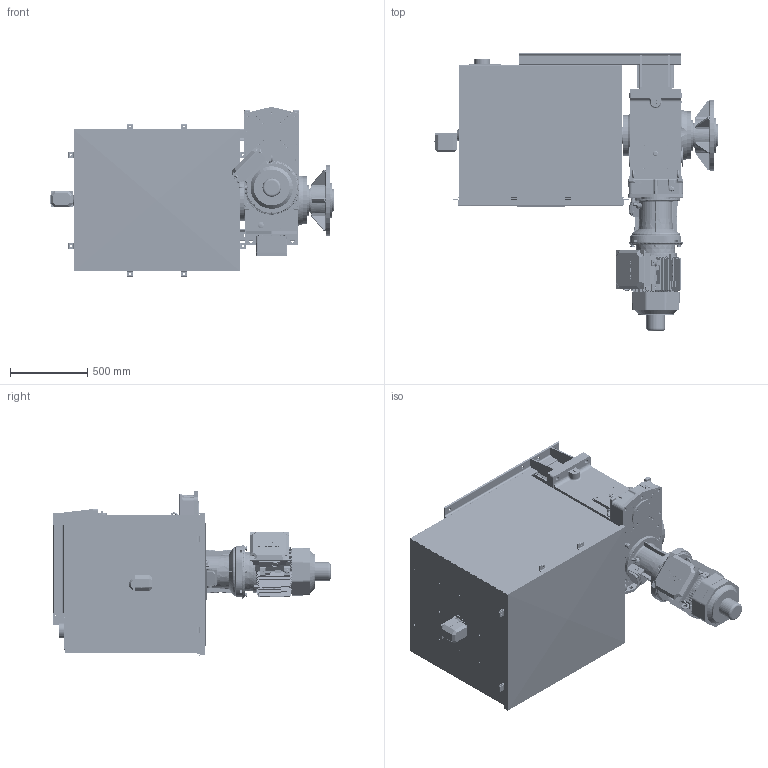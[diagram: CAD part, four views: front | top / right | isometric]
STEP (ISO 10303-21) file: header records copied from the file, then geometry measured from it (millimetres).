
FILE_DESCRIPTION(/* description */ (''),/* implementation_level */ '2;1');
FILE_NAME(/* name */ 'K:\NEMANJA\CABLE REEL\CABLE REEL DA\0700-6\07006005 DA-CRVD\STEP\75964.stp',/* time_stamp */ '2017-03-16T13:49:50+01:00',/* author */ ('zeldjo01'),/* organization */ ('Hillmar Industries Ltd.'),/* preprocessor_version */ 'ST-DEVELOPER v16.1',/* originating_system */ 'Autodesk Inventor 2016',/* authorisation */ '');
FILE_SCHEMA (('AUTOMOTIVE_DESIGN { 1 0 10303 214 3 1 1 }'));
Products named in the file (1): 75964
Bounding box: 1834.14 x 1796.59 x 1096.62 mm (x, y, z)
Volume: 134019358.5 mm3; surface area: 21852547.3 mm2
Topology: 8 solids, 8 shells, 5607 faces, 14865 edges, 9579 vertices
Faces by surface type: plane 2594, cylinder 1629, bspline 603, cone 509, torus 233, sphere 39
Full cylindrical faces by diameter (mm): 7 x4, 8 x2, 8.376 x24, 8.731 x1, 9 x3, 10 x25, 10.106 x87, 10.38 x1, 11 x32, 12 x18, 12.5 x6, 13 x39, 13.2 x1, 13.5 x16, 14 x32, 14.917 x4, 15 x1, 16 x5, 16.974 x3, 17.336 x1, 17.475 x1, 18 x4, 18.256 x3, 18.38 x4, 19 x4, 20 x26, 20.5 x4, 21.336 x1, 22 x26, 22.225 x1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
Entity records: 191720 total; most frequent: CARTESIAN_POINT 55278, ORIENTED_EDGE 27250, DIRECTION 25776, EDGE_CURVE 13606, AXIS2_PLACEMENT_3D 9358, VERTEX_POINT 9130, LINE 7060, VECTOR 7060
